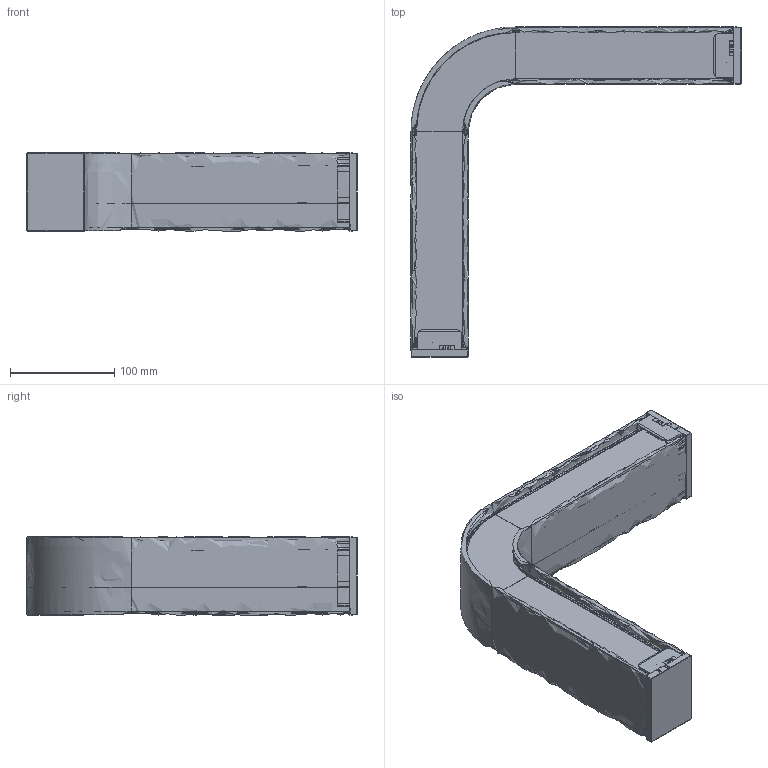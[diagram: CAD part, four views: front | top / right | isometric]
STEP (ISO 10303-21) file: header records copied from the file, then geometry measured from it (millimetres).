
FILE_DESCRIPTION(/* description */ (''),/* implementation_level */ '2;1');
FILE_NAME(/* name */ 'KISSA9~1',/* time_stamp */ '2026-04-24T14:04:58+02:00',/* author */ (''),/* organization */ (''),/* preprocessor_version */ 'ST-DEVELOPER v16.5',/* originating_system */ '',/* authorisation */ '');
FILE_SCHEMA (('AUTOMOTIVE_DESIGN'));
Products named in the file (1): Document
Bounding box: 316.74 x 316.74 x 75 mm (x, y, z)
Volume: 247692.4 mm3; surface area: 431348.1 mm2
Topology: 9 solids, 9 shells, 1922 faces, 5268 edges, 3366 vertices
Faces by surface type: bspline 1922
Entity records: 166572 total; most frequent: CARTESIAN_POINT 99394, B_SPLINE_CURVE_WITH_KNOTS 14552, ORIENTED_EDGE 10512, PCURVE 10512, DEFINITIONAL_REPRESENTATION 10512, SURFACE_CURVE 5256, EDGE_CURVE 5256, VERTEX_POINT 3366
